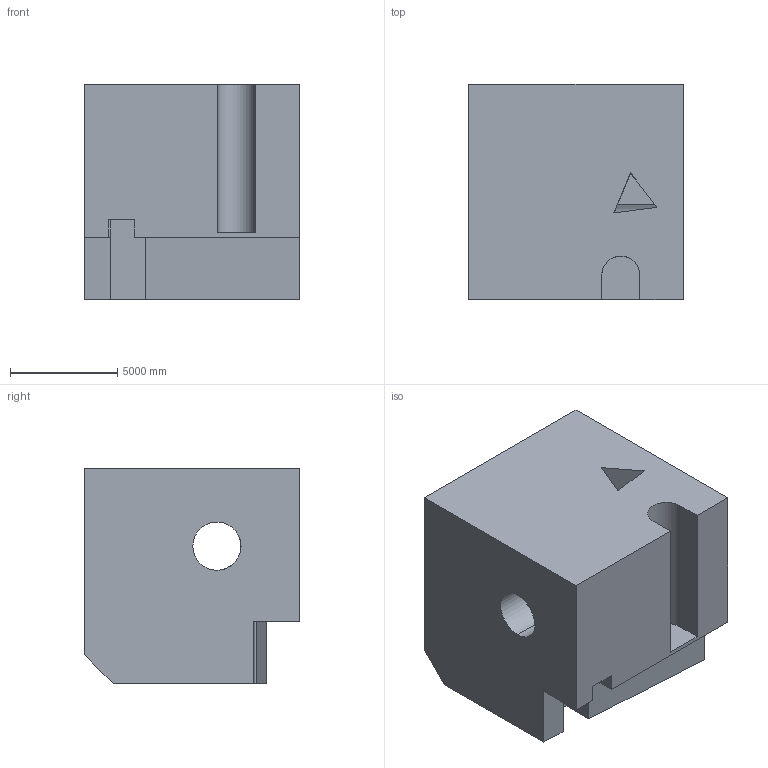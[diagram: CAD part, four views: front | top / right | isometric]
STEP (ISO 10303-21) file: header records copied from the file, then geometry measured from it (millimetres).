
FILE_DESCRIPTION (( 'STEP AP203' ), '1' );
FILE_NAME ('814.STEP', '2022-08-04T15:55:58', ( 'user' ), ( '' ), 'SwSTEP 2.0', 'SolidWorks 2021', '' );
FILE_SCHEMA (( 'CONFIG_CONTROL_DESIGN' ));
Length unit declared in the file: centimetre
Products named in the file (1): 814
Bounding box: 10000 x 10000 x 10000 mm (x, y, z)
Volume: 839721126142.2 mm3; surface area: 721331815.7 mm2
Topology: 1 solids, 1 shells, 37 faces, 104 edges, 69 vertices
Faces by surface type: plane 30, cylinder 7
Entity records: 1275 total; most frequent: CARTESIAN_POINT 220, ORIENTED_EDGE 208, DIRECTION 193, EDGE_CURVE 104, LINE 85, VECTOR 85, VERTEX_POINT 69, AXIS2_PLACEMENT_3D 54
